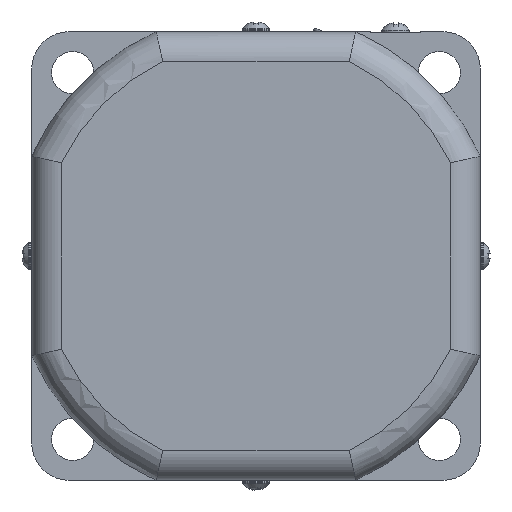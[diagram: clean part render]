
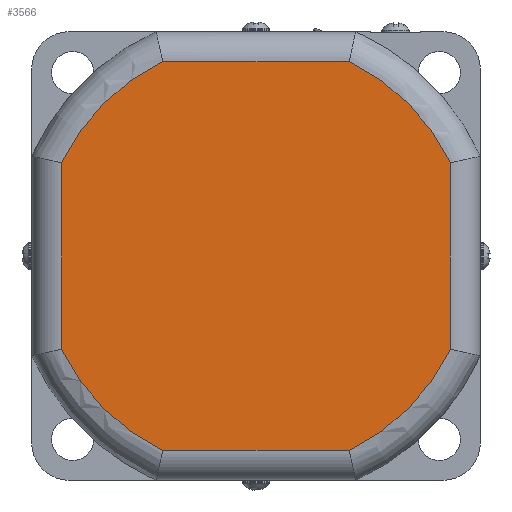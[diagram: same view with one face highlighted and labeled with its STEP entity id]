
A CAD part, left-side view. The second image highlights one B-rep face of the part: STEP entity #3566.
In plain terms, the highlighted planar face has unit normal (-1, 0, 0) as drawn and (0, 0, -1) by its records, which use the part's own axes.
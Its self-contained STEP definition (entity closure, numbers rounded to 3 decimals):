
#185=PLANE('',#3974);
#359=FACE_OUTER_BOUND('',#587,.T.);
#587=EDGE_LOOP('',(#2878,#2879,#2880,#2881,#2882,#2883,#2884,#2885));
#782=CIRCLE('',#3960,43.25);
#783=CIRCLE('',#3964,43.25);
#786=CIRCLE('',#3968,43.25);
#787=CIRCLE('',#3972,43.25);
#978=LINE('',#6111,#1258);
#981=LINE('',#6131,#1261);
#982=LINE('',#6184,#1262);
#983=LINE('',#6201,#1263);
#1258=VECTOR('',#4638,37.393);
#1261=VECTOR('',#4643,37.393);
#1262=VECTOR('',#4658,37.393);
#1263=VECTOR('',#4661,37.393);
#1661=VERTEX_POINT('',#6061);
#1663=VERTEX_POINT('',#6078);
#1665=VERTEX_POINT('',#6096);
#1667=VERTEX_POINT('',#6115);
#1668=VERTEX_POINT('',#6133);
#1669=VERTEX_POINT('',#6151);
#1670=VERTEX_POINT('',#6169);
#1671=VERTEX_POINT('',#6186);
#2088=EDGE_CURVE('',#1663,#1661,#782,.T.);
#2090=EDGE_CURVE('',#1665,#1663,#978,.T.);
#2094=EDGE_CURVE('',#1661,#1667,#981,.T.);
#2096=EDGE_CURVE('',#1668,#1665,#783,.T.);
#2100=EDGE_CURVE('',#1667,#1669,#786,.T.);
#2102=EDGE_CURVE('',#1670,#1668,#982,.T.);
#2104=EDGE_CURVE('',#1669,#1671,#983,.T.);
#2105=EDGE_CURVE('',#1671,#1670,#787,.T.);
#2878=ORIENTED_EDGE('',*,*,#2104,.F.);
#2879=ORIENTED_EDGE('',*,*,#2100,.F.);
#2880=ORIENTED_EDGE('',*,*,#2094,.F.);
#2881=ORIENTED_EDGE('',*,*,#2088,.F.);
#2882=ORIENTED_EDGE('',*,*,#2090,.F.);
#2883=ORIENTED_EDGE('',*,*,#2096,.F.);
#2884=ORIENTED_EDGE('',*,*,#2102,.F.);
#2885=ORIENTED_EDGE('',*,*,#2105,.F.);
#3566=ADVANCED_FACE('',(#359),#185,.F.);
#3960=AXIS2_PLACEMENT_3D('',#6093,#4634,#4635);
#3964=AXIS2_PLACEMENT_3D('',#6148,#4646,#4647);
#3968=AXIS2_PLACEMENT_3D('',#6167,#4654,#4655);
#3972=AXIS2_PLACEMENT_3D('',#6203,#4664,#4665);
#3974=AXIS2_PLACEMENT_3D('',#6205,#4668,#4669);
#4634=DIRECTION('center_axis',(0.,0.,1.));
#4635=DIRECTION('ref_axis',(0.707,-0.707,0.));
#4638=DIRECTION('',(1.,0.,0.));
#4643=DIRECTION('',(0.,1.,0.));
#4646=DIRECTION('center_axis',(0.,0.,1.));
#4647=DIRECTION('ref_axis',(-0.707,-0.707,0.));
#4654=DIRECTION('center_axis',(0.,0.,1.));
#4655=DIRECTION('ref_axis',(0.707,0.707,0.));
#4658=DIRECTION('',(0.,-1.,0.));
#4661=DIRECTION('',(-1.,0.,0.));
#4664=DIRECTION('center_axis',(0.,0.,1.));
#4665=DIRECTION('ref_axis',(-0.707,0.707,0.));
#4668=DIRECTION('center_axis',(0.,0.,1.));
#4669=DIRECTION('ref_axis',(1.,0.,0.));
#6061=CARTESIAN_POINT('',(39.,-18.697,0.));
#6078=CARTESIAN_POINT('',(18.697,-39.,0.));
#6093=CARTESIAN_POINT('Origin',(0.,0.,0.));
#6096=CARTESIAN_POINT('',(-18.697,-39.,0.));
#6111=CARTESIAN_POINT('',(-18.697,-39.,0.));
#6115=CARTESIAN_POINT('',(39.,18.697,0.));
#6131=CARTESIAN_POINT('',(39.,-18.697,0.));
#6133=CARTESIAN_POINT('',(-39.,-18.697,0.));
#6148=CARTESIAN_POINT('Origin',(0.,0.,0.));
#6151=CARTESIAN_POINT('',(18.697,39.,0.));
#6167=CARTESIAN_POINT('Origin',(0.,0.,0.));
#6169=CARTESIAN_POINT('',(-39.,18.697,0.));
#6184=CARTESIAN_POINT('',(-39.,18.697,0.));
#6186=CARTESIAN_POINT('',(-18.697,39.,0.));
#6201=CARTESIAN_POINT('',(18.697,39.,0.));
#6203=CARTESIAN_POINT('Origin',(0.,0.,0.));
#6205=CARTESIAN_POINT('Origin',(0.,0.,0.));
